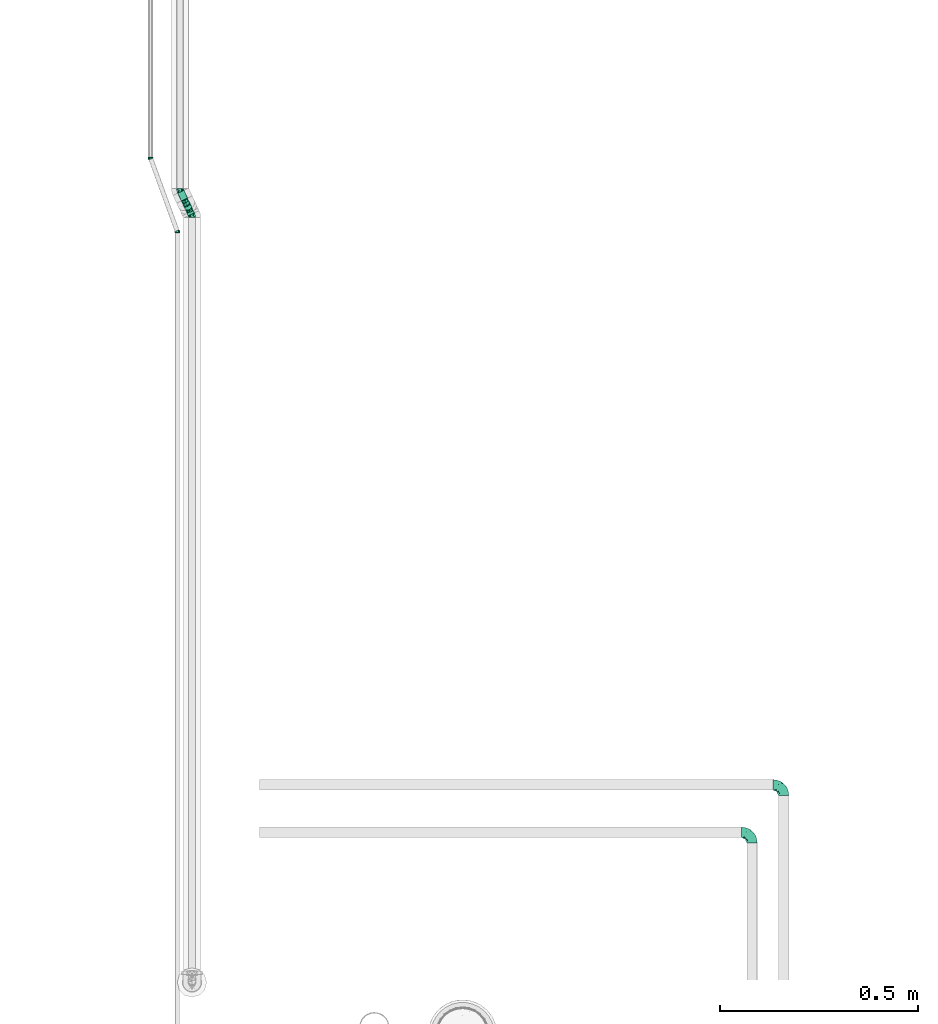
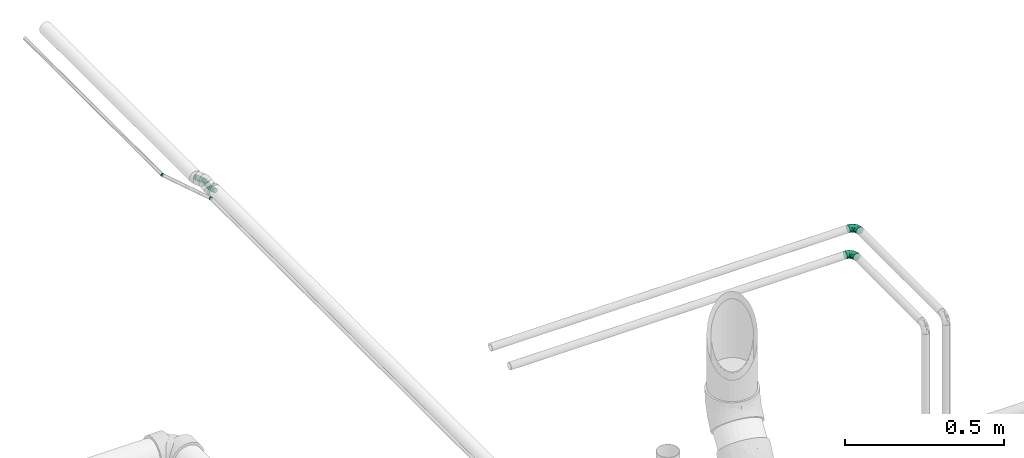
# One storey, part 92 of 156: 8 flow fittings, 3 flow segments.
"""IFC2X3 building model written with IfcOpenShell, lengths in millimetres."""

from ifc_helpers import new_model, entity, si_unit, converted_unit, derived_unit, direction, frame, origin_with_axes, origin_2d_with_axis, place, context, subcontext, project, spatial, hollow_circle, extrude, open_shell, surface_model, source, transform, mapped, type_object, element, save


model = new_model("IFC2X3")

# Units and contexts
model_context = context("Model", 3, precision=0.01, world=frame((0.0, 4.29681676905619e-09, 0.0)), true_north=direction((4.01073788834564e-13, 1.0)))
plan_context = context("Plan", 3, precision=0.01, world=frame((0.0, 4.29681676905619e-09, 0.0)), true_north=direction((4.01073788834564e-13, 1.0)))
body_context = subcontext(model_context, "Body", "Model", "MODEL_VIEW")
ifc_project = project(units=[converted_unit("PLANEANGLEUNIT", "DEGREE", entity("IfcPositiveLengthMeasure", 0.0174532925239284), si_unit("PLANEANGLEUNIT", "RADIAN"), dimensions=[0, 0, 0, 0, 0, 0, 0]), si_unit("AREAUNIT", "SQUARE_METRE"), si_unit("LENGTHUNIT", "METRE", prefix="MILLI"), si_unit("MASSUNIT", "GRAM", prefix="KILO"), si_unit("POWERUNIT", "WATT"), si_unit("PRESSUREUNIT", "PASCAL", prefix="KILO"), si_unit("FORCEUNIT", "NEWTON", prefix="KILO"), si_unit("ELECTRICVOLTAGEUNIT", "VOLT"), si_unit("ELECTRICCURRENTUNIT", "AMPERE"), si_unit("THERMODYNAMICTEMPERATUREUNIT", "DEGREE_CELSIUS"), si_unit("TIMEUNIT", "SECOND"), si_unit("VOLUMEUNIT", "CUBIC_METRE"), derived_unit("LINEARVELOCITYUNIT", [(si_unit("LENGTHUNIT", "METRE"), 1), (si_unit("TIMEUNIT", "SECOND"), -1)]), derived_unit("VOLUMETRICFLOWRATEUNIT", [(si_unit("VOLUMEUNIT", "CUBIC_METRE"), 1), (si_unit("TIMEUNIT", "SECOND"), -1)]), derived_unit("THERMALTRANSMITTANCEUNIT", [(si_unit("POWERUNIT", "WATT"), 1), (si_unit("THERMODYNAMICTEMPERATUREUNIT", "KELVIN"), -1), (si_unit("AREAUNIT", "SQUARE_METRE"), -1)]), derived_unit("SOUNDPRESSUREUNIT", [(si_unit("PRESSUREUNIT", "PASCAL"), 1)])], contexts=[model_context, plan_context])

# Site, building, storey
site_placement = place(None, frame((0.0, -4.29681676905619e-09, 0.0), z_axis=(0.0, 0.0, 1.0), x_axis=(1.0, 0.0, 0.0)))
site = spatial("IfcSite", under=ifc_project, at=site_placement, CompositionType="ELEMENT")
building_placement = place(site_placement, frame((0.0, 4.29681676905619e-09, 0.0), z_axis=(0.0, 0.0, 1.0), x_axis=(1.0, 0.0, 0.0)))
building = spatial("IfcBuilding", under=site, at=building_placement, Name="mc-building", CompositionType="ELEMENT")
storey_placement = place(building_placement, frame((0.0, 0.0, 205200.0), z_axis=(0.0, 0.0, 1.0), x_axis=(1.0, 0.0, 0.0)))
storey = spatial("IfcBuildingStorey", under=building, at=storey_placement, Name="Nivå D + 1,2 m", CompositionType="ELEMENT", Elevation=205200.0)

# Flow fittings
pipe_fitting_type_1 = type_object("IfcPipeFittingType", Name="magi_pipe_fe_elbow_short_001", PredefinedType="BEND")
shared_shape_1 = source(origin_with_axes(), body_context, "Body", "SurfaceModel", [
    surface_model("IfcShellBasedSurfaceModel", [(-26.8, 0.0, -13.4), (-26.8, -12.94341, -3.46818), (-26.8, 3.46818, -12.94341), (-26.8, 6.7, -11.60474), (-26.8, 9.47523, -9.47523), (-26.8, 11.60474, -6.7), (-26.8, 11.60474, 6.7), (-26.8, -9.47523, -9.47523), (-26.8, -6.7, -11.60474), (-26.8, -3.46818, -12.94341), (-26.8, -11.60474, -6.7), (-26.8, -13.4, 0.0), (-26.8, -12.94341, 3.46818), (-26.8, 12.94341, -3.46818), (-26.8, 12.94341, 3.46818), (-26.8, 3.46818, 12.94341), (-26.8, 6.7, 11.60474), (-26.8, 9.47523, 9.47523), (-26.8, -6.7, 11.60474), (-26.8, -11.60474, 6.7), (-26.8, -9.47523, 9.47523), (-26.8, -3.46818, 12.94341), (-26.8, 0.0, 13.4), (-26.8, 13.4, 0.0), (-3.46818, 26.8, -12.94341), (12.94341, 26.8, -3.46818), (0.0, 26.8, -13.4), (-9.47523, 26.8, -9.47523), (-6.7, 26.8, -11.60474), (-11.60474, 26.8, -6.7), (-11.60474, 26.8, 6.7), (6.7, 26.8, -11.60474), (9.47523, 26.8, -9.47523), (3.46818, 26.8, -12.94341), (11.60474, 26.8, -6.7), (12.94341, 26.8, 3.46818), (13.4, 26.8, 0.0), (-13.4, 26.8, 0.0), (-12.94341, 26.8, -3.46818), (-12.94341, 26.8, 3.46818), (-9.47523, 26.8, 9.47523), (-6.7, 26.8, 11.60474), (-3.46818, 26.8, 12.94341), (6.7, 26.8, 11.60474), (9.47523, 26.8, 9.47523), (11.60474, 26.8, 6.7), (3.46818, 26.8, 12.94341), (0.0, 26.8, 13.4), (-17.94383, -11.72186, 4.19396), (-19.61933, -10.40522, 7.51874), (-14.00394, -9.97131, 0.0), (-10.88146, -9.75217, 2.96415), (5.6402, 4.14256, 4.06277), (2.9355, 3.86758, 7.99817), (-0.16552, -0.70254, 6.90229), (-11.69279, -8.47867, 6.74741), (-3.60975, -5.23517, 4.12915), (-20.40197, -11.68565, 0.0), (6.07727, 10.7767, 9.16668), (7.71917, 17.5318, 9.98024), (3.23022, 10.34855, 11.14395), (-17.5318, -7.71917, 9.98024), (-19.6814, -5.06542, 12.05518), (-20.47091, -1.77513, 13.17083), (-18.76435, 2.05404, 13.37716), (-10.34855, -3.23022, 11.14395), (-13.34095, -0.12025, 12.98799), (-20.6562, 5.25542, 12.65822), (-21.01515, 11.15223, 8.78653), (-19.1981, 14.0055, 6.12639), (-23.45804, 12.58298, 5.55254), (-13.79572, 19.62699, 6.0655), (-4.65712, 13.17755, 13.37596), (-9.92557, 9.92557, 13.07441), (-7.97904, 5.85569, 13.33097), (-14.12498, 14.96497, 9.49183), (-23.18377, 8.11481, 10.91864), (-3.49778, 8.97497, 13.15743), (-6.65819, 2.45826, 12.5129), (-1.36893, 7.23965, 12.31444), (-22.3163, 13.71444, 3.37662), (-20.76788, 15.89859, 0.0), (-5.00198, 23.11411, 12.55149), (-1.83653, 20.04451, 13.36709), (5.06542, 19.6814, 12.05518), (-4.60225, -3.19632, 8.30444), (-2.39362, 2.39362, 10.95564), (1.77513, 20.47091, 13.17083), (10.40522, 19.61933, 7.51874), (8.47867, 11.69279, 6.74741), (11.72186, 17.94383, 4.19396), (-10.7767, -6.07727, 9.16668), (-14.71477, 20.20527, 3.11661), (-18.32912, 15.92283, 3.19527), (9.75217, 10.88146, 2.96415), (9.97131, 14.00394, 0.0), (11.68565, 20.40197, 0.0), (-17.32477, 17.32477, 0.0), (8.01422, 6.7, 0.0), (-11.0099, 17.80242, 10.25412), (-8.46783, 20.75346, 11.10693), (-11.06207, 21.36651, 8.74797), (-10.13559, 14.48567, 11.94159), (-5.79525, 18.15733, 12.76163), (-14.31139, 12.02432, 11.13575), (-6.7, -8.01422, 0.0), (-14.72492, 5.73985, 13.1602), (-13.14892, 3.28357, 13.39428), (-14.24576, 9.09225, 12.39421), (-7.80572, 13.90987, 12.83655), (0.12025, 13.34095, 12.98799), (-18.45241, 9.09615, 11.28418), (-1.02036, 0.84565, 9.15855), (-3.66591, -4.13183, 6.30134), (-3.02144, -4.33567, 0.0), (1.56761, -1.1228, 3.23127), (-15.89859, 20.76788, 0.0), (4.33567, 3.02144, 0.0), (0.65711, -0.65711, 0.0), (-21.21323, 1.69434, -13.35639), (-11.59215, 19.61477, -8.94181), (-19.9553, -12.05444, -4.41231), (-20.61911, 5.26132, -12.65979), (-18.29002, 15.89425, -3.37935), (-10.94714, -3.38176, -11.24231), (-11.6358, -0.16715, -12.74497), (-5.38395, -0.22423, -10.97991), (-19.45447, 8.78609, -11.20697), (-21.18665, 11.10723, -8.76769), (8.05635, 19.80434, -10.14754), (-16.16073, 12.27967, -10.10626), (-10.65974, -9.81032, -2.24682), (-4.63434, -6.26604, -3.21731), (-12.41035, 15.57424, -10.31822), (-9.54276, 16.38525, -11.6371), (-12.38435, 12.38435, -11.76567), (-1.18054, -2.52878, -5.66699), (1.17703, 2.36499, -8.51656), (4.94456, 3.94062, -5.27361), (-13.23013, 7.7548, -12.95755), (-18.92609, -10.30887, -7.4546), (-19.80434, -8.05635, -10.14754), (-5.46999, 19.49566, -12.70683), (12.05444, 19.9553, -4.41231), (-22.63124, -5.28269, -12.19553), (-11.57403, -7.91736, -7.4927), (-10.00514, -5.4662, -9.37392), (0.56412, 6.29454, -11.17498), (0.16715, 11.6358, -12.74497), (2.76952, 11.43973, -11.70622), (-22.71135, 13.83144, -2.294), (-13.13887, 21.26515, -5.84046), (-14.02683, 21.74629, -2.98452), (10.30887, 18.92609, -7.4546), (-4.73052, 4.73052, -12.6532), (-16.28385, 15.93209, -6.57302), (-1.69434, 21.21323, -13.35639), (-8.4106, 21.03687, -11.08508), (1.68957, 19.74249, -13.15499), (5.28269, 22.63124, -12.19553), (-19.74249, -1.68957, -13.15499), (-16.96978, -4.62448, -11.91765), (-3.16773, 14.76219, -13.39711), (-7.24575, 7.81916, -13.39239), (-7.92886, 12.7032, -13.00116), (-6.57993, -6.26304, -6.05124), (9.46363, 9.95483, -2.39006), (6.59847, 4.89531, -2.6225), (0.29079, -2.47661, -2.876), (-21.42347, 13.17132, -5.65321), (9.35918, 11.66841, -5.08525), (8.33374, 12.94014, -7.69724), (5.4662, 10.00514, -9.37392), (4.62448, 16.96978, -11.91765), (-3.89324, -2.60816, -8.35445), (5.97121, 7.49007, -7.29975), (-14.76219, 3.16773, -13.39711), (-15.36238, 22.06238, 0.0), (-11.66841, -9.35918, -5.08525), (3.63632, 1.19488, -3.35093), (-14.94382, 15.17624, -8.6945)], [open_shell([[[0, 1, 2]], [[3, 2, 4]], [[5, 2, 1]], [[4, 2, 5]], [[5, 1, 6]], [[7, 1, 8]], [[0, 9, 8]], [[10, 1, 7]], [[8, 1, 0]], [[11, 12, 1]], [[13, 5, 14]], [[5, 6, 14]], [[1, 15, 6]], [[15, 16, 17]], [[6, 15, 17]], [[1, 18, 15]], [[19, 20, 12]], [[18, 12, 20]], [[18, 21, 15]], [[18, 1, 12]], [[15, 21, 22]], [[14, 23, 13]], [[24, 25, 26]], [[27, 24, 28]], [[25, 24, 29]], [[29, 24, 27]], [[30, 25, 29]], [[31, 25, 32]], [[31, 33, 26]], [[32, 25, 34]], [[26, 25, 31]], [[25, 35, 36]], [[37, 29, 38]], [[39, 30, 29]], [[30, 40, 25]], [[40, 41, 42]], [[42, 25, 40]], [[43, 25, 42]], [[35, 44, 45]], [[44, 35, 43]], [[42, 46, 43]], [[35, 25, 43]], [[47, 46, 42]], [[39, 29, 37]], [[48, 49, 19]], [[48, 50, 51]], [[52, 53, 54]], [[55, 51, 56]], [[49, 20, 19]], [[57, 48, 12]], [[58, 59, 60]], [[61, 18, 20]], [[61, 62, 18]], [[22, 63, 64]], [[62, 65, 66]], [[59, 44, 43]], [[22, 21, 63]], [[67, 16, 15]], [[68, 69, 70]], [[30, 39, 71]], [[72, 73, 74]], [[69, 68, 75]], [[22, 64, 15]], [[16, 76, 17]], [[6, 17, 68]], [[77, 78, 79]], [[80, 81, 23]], [[42, 82, 83]], [[43, 84, 59]], [[85, 86, 65]], [[46, 47, 87]], [[88, 89, 90]], [[91, 65, 61]], [[47, 42, 83]], [[71, 92, 93]], [[90, 94, 95]], [[84, 43, 46]], [[88, 90, 45]], [[59, 84, 60]], [[35, 45, 90]], [[75, 71, 69]], [[18, 62, 21]], [[90, 96, 35]], [[97, 81, 93]], [[94, 98, 95]], [[92, 97, 93]], [[50, 48, 57]], [[70, 14, 6]], [[99, 100, 101]], [[40, 101, 100]], [[41, 40, 100]], [[102, 103, 100]], [[103, 72, 83]], [[82, 100, 103]], [[82, 42, 41]], [[99, 104, 102]], [[23, 14, 80]], [[67, 15, 64]], [[51, 50, 105]], [[48, 19, 12]], [[49, 55, 61]], [[45, 44, 88]], [[89, 52, 94]], [[106, 107, 74]], [[108, 67, 106]], [[40, 30, 101]], [[103, 102, 109]], [[103, 109, 72]], [[87, 83, 110]], [[76, 68, 17]], [[68, 111, 104]], [[65, 62, 61]], [[63, 62, 66]], [[91, 61, 55]], [[65, 86, 78]], [[87, 84, 46]], [[110, 79, 60]], [[110, 60, 84]], [[86, 112, 60]], [[55, 49, 48]], [[61, 20, 49]], [[44, 59, 88]], [[89, 88, 59]], [[106, 67, 64]], [[76, 67, 111]], [[53, 52, 89]], [[112, 86, 85]], [[56, 113, 55]], [[112, 54, 53]], [[58, 89, 59]], [[56, 51, 105]], [[114, 115, 56]], [[14, 70, 80]], [[69, 71, 93]], [[37, 116, 92]], [[92, 116, 97]], [[30, 71, 101]], [[75, 101, 71]], [[99, 102, 100]], [[108, 104, 111]], [[106, 74, 73]], [[110, 83, 72]], [[78, 74, 66]], [[72, 74, 77]], [[83, 87, 47]], [[84, 87, 110]], [[62, 63, 21]], [[64, 63, 66]], [[12, 11, 57]], [[96, 90, 95]], [[96, 36, 35]], [[115, 117, 52]], [[56, 105, 114]], [[55, 48, 51]], [[89, 94, 90]], [[52, 98, 94]], [[106, 64, 107]], [[108, 106, 73]], [[102, 108, 73]], [[67, 108, 111]], [[102, 104, 108]], [[68, 104, 75]], [[64, 66, 107]], [[66, 74, 107]], [[65, 78, 66]], [[79, 78, 86]], [[60, 79, 86]], [[77, 79, 110]], [[72, 77, 110]], [[78, 77, 74]], [[67, 76, 16]], [[68, 76, 111]], [[100, 82, 41]], [[83, 82, 103]], [[68, 70, 6]], [[80, 69, 93]], [[69, 80, 70]], [[80, 93, 81]], [[55, 85, 91]], [[85, 65, 91]], [[60, 53, 58]], [[53, 89, 58]], [[54, 112, 85]], [[60, 112, 53]], [[85, 113, 54]], [[113, 115, 54]], [[55, 113, 85]], [[115, 113, 56]], [[71, 39, 92]], [[115, 114, 118]], [[37, 92, 39]], [[101, 75, 99]], [[99, 75, 104]], [[102, 73, 109]], [[72, 109, 73]], [[54, 115, 52]], [[117, 115, 118]], [[117, 98, 52]], [[2, 119, 0]], [[29, 27, 120]], [[121, 57, 1]], [[3, 122, 2]], [[97, 123, 81]], [[124, 125, 126]], [[127, 4, 128]], [[32, 129, 31]], [[127, 128, 130]], [[131, 132, 105]], [[133, 134, 135]], [[127, 3, 4]], [[136, 137, 138]], [[139, 122, 127]], [[4, 5, 128]], [[10, 140, 121]], [[141, 140, 7]], [[24, 142, 28]], [[95, 143, 96]], [[144, 8, 9]], [[145, 141, 146]], [[25, 36, 96]], [[147, 148, 149]], [[140, 10, 7]], [[23, 81, 150]], [[130, 133, 135]], [[151, 152, 38]], [[153, 34, 143]], [[147, 154, 148]], [[38, 29, 151]], [[120, 155, 151]], [[32, 153, 129]], [[26, 156, 24]], [[24, 156, 142]], [[143, 34, 25]], [[27, 28, 157]], [[123, 152, 155]], [[158, 33, 159]], [[144, 160, 161]], [[122, 3, 127]], [[148, 162, 158]], [[157, 28, 142]], [[162, 163, 164]], [[159, 33, 31]], [[165, 136, 132]], [[34, 153, 32]], [[166, 98, 167]], [[160, 9, 0]], [[161, 160, 125]], [[95, 166, 143]], [[50, 131, 105]], [[121, 1, 10]], [[168, 114, 132]], [[150, 169, 13]], [[167, 98, 117]], [[33, 158, 26]], [[164, 142, 162]], [[133, 157, 134]], [[7, 8, 141]], [[165, 145, 146]], [[170, 171, 153]], [[129, 172, 173]], [[126, 137, 174]], [[175, 137, 172]], [[148, 158, 173]], [[156, 158, 162]], [[149, 172, 147]], [[148, 154, 163]], [[119, 160, 0]], [[176, 163, 125]], [[176, 125, 160]], [[125, 154, 126]], [[169, 128, 5]], [[127, 130, 135]], [[139, 127, 135]], [[119, 122, 176]], [[120, 151, 29]], [[152, 97, 177]], [[142, 164, 134]], [[120, 27, 157]], [[152, 37, 38]], [[81, 123, 150]], [[123, 155, 169]], [[152, 123, 97]], [[140, 178, 121]], [[121, 178, 131]], [[144, 141, 8]], [[146, 141, 161]], [[25, 96, 143]], [[170, 153, 143]], [[129, 153, 171]], [[159, 129, 173]], [[137, 147, 172]], [[126, 154, 147]], [[172, 171, 175]], [[174, 137, 136]], [[137, 126, 147]], [[126, 146, 124]], [[117, 118, 179]], [[179, 138, 167]], [[128, 169, 155]], [[5, 13, 169]], [[57, 121, 50]], [[57, 11, 1]], [[122, 119, 2]], [[160, 119, 176]], [[158, 156, 26]], [[142, 156, 162]], [[162, 148, 163]], [[139, 135, 164]], [[125, 163, 154]], [[139, 163, 176]], [[163, 139, 164]], [[122, 139, 176]], [[155, 180, 128]], [[180, 120, 133]], [[180, 133, 130]], [[157, 133, 120]], [[142, 134, 157]], [[164, 135, 134]], [[128, 180, 130]], [[120, 180, 155]], [[152, 151, 155]], [[37, 152, 177]], [[169, 150, 123]], [[23, 150, 13]], [[121, 131, 50]], [[178, 165, 132]], [[178, 132, 131]], [[168, 132, 136]], [[145, 165, 178]], [[174, 165, 146]], [[178, 140, 145]], [[141, 145, 140]], [[179, 136, 138]], [[170, 166, 167]], [[168, 179, 118]], [[170, 167, 138]], [[143, 166, 170]], [[95, 98, 166]], [[117, 179, 167]], [[136, 179, 168]], [[129, 159, 31]], [[158, 159, 173]], [[160, 144, 9]], [[141, 144, 161]], [[175, 170, 138]], [[129, 171, 172]], [[170, 175, 171]], [[137, 175, 138]], [[148, 173, 149]], [[172, 149, 173]], [[165, 174, 136]], [[126, 174, 146]], [[146, 161, 124]], [[125, 124, 161]], [[114, 168, 118]], [[114, 105, 132]]])]),
])
for number, where, z_axis, x_axis, name in (
    (1, (325040.9735, 464927.01094, 4400.0), (0.0, 0.0, 1.0), (0.0, 1.0, 0.0), "magi_pipe_fe_elbow_short_001"),
    (2, (325120.9735, 465047.01094, 4400.0), (0.0, 0.0, 1.0), (0.0, 1.0, 0.0), "magi_pipe_fe_elbow_short_001"),
):
    element("IfcFlowFitting", number, at=place(storey_placement, frame(where, z_axis=z_axis, x_axis=x_axis)), inside=storey, type_object=pipe_fitting_type_1, Name=name, context=body_context, shape_type="MappedRepresentation", body=[
        mapped(shared_shape_1, transform((0.0, 0.0, 0.0), scale=1.0)),
    ])
pipe_fitting_type_2 = type_object("IfcPipeFittingType", Name="magi_pipe_elbow_short_001", PredefinedType="BEND")
shared_shape_2 = source(origin_with_axes(), body_context, "Body", "SurfaceModel", [
    surface_model("IfcShellBasedSurfaceModel", [(-7.45584, 4.5, -7.79423), (-7.45584, 2.32937, -8.69333), (-7.45584, 0.0, -9.0), (-7.45584, -6.36396, -6.36396), (-7.45584, 8.69333, -2.32937), (-7.45584, 7.79423, -4.5), (-7.45584, 6.36396, -6.36396), (-7.45584, -4.5, -7.79423), (-7.45584, -2.32937, -8.69333), (-7.45584, -7.79423, -4.5), (-7.45584, -8.69333, -2.32937), (-7.45584, -9.0, 0.0), (-7.45584, 8.69333, 2.32937), (-7.45584, -8.69333, 2.32937), (-7.45584, 7.79423, 4.5), (-7.45584, 6.36396, 6.36396), (-7.45584, 2.32937, 8.69333), (-7.45584, 4.5, 7.79423), (-7.45584, -7.79423, 4.5), (-7.45584, -6.36396, 6.36396), (-7.45584, -4.5, 7.79423), (-7.45584, -2.32937, 8.69333), (-7.45584, 0.0, 9.0), (-7.45584, 9.0, 0.0), (5.27208, 5.27208, -9.0), (3.62496, 6.91919, -8.69333), (2.0901, 8.45406, -7.79423), (9.77208, 0.77208, -6.36396), (-0.23927, 10.78343, -4.5), (-0.87504, 11.41919, -2.32937), (0.77208, 9.77208, -6.36396), (11.41919, -0.87504, -2.32937), (6.91919, 3.62496, -8.69333), (8.45406, 2.0901, -7.79423), (10.78343, -0.23927, -4.5), (11.41919, -0.87504, 2.32937), (11.63604, -1.09188, 0.0), (9.77208, 0.77208, 6.36396), (-0.87504, 11.41919, 2.32937), (0.77208, 9.77208, 6.36396), (-0.23927, 10.78343, 4.5), (2.0901, 8.45406, 7.79423), (3.62496, 6.91919, 8.69333), (10.78343, -0.23927, 4.5), (6.91919, 3.62496, 8.69333), (8.45406, 2.0901, 7.79423), (5.27208, 5.27208, 9.0), (-1.09188, 11.63604, 0.0), (-3.55786, -8.22464, 0.0), (-2.49647, -4.73929, 7.29293), (0.8774, 4.5905, 8.72391), (-0.68155, 0.58624, 8.97389), (-2.85416, 7.01633, 6.62539), (-5.50685, -8.61232, 0.0), (2.87661, -6.94475, 0.0), (-0.34063, -7.5847, 0.0), (4.91359, -2.18987, 6.9831), (5.60405, -5.12233, 0.0), (-4.01169, 9.68508, 0.0), (8.33149, -3.29991, 0.0), (9.98376, -2.1959, 0.0), (-0.73677, 5.37048, -8.2068), (4.81728, -2.45322, -6.83687), (-1.11341, -1.36817, -8.67955)], [open_shell([[[0, 1, 2]], [[0, 2, 3]], [[0, 4, 5]], [[6, 0, 5]], [[4, 0, 3]], [[7, 3, 8]], [[3, 2, 8]], [[9, 10, 3]], [[11, 3, 10]], [[3, 11, 4]], [[11, 12, 4]], [[12, 11, 13]], [[14, 12, 15]], [[16, 17, 15]], [[13, 15, 12]], [[15, 18, 16]], [[18, 19, 16]], [[15, 13, 18]], [[20, 21, 19]], [[22, 19, 21]], [[16, 19, 22]], [[23, 4, 12]], [[24, 25, 26]], [[27, 24, 26]], [[28, 29, 26]], [[28, 26, 30]], [[31, 26, 29]], [[32, 27, 33]], [[32, 24, 27]], [[27, 31, 34]], [[26, 31, 27]], [[31, 35, 36]], [[31, 29, 37]], [[29, 38, 39]], [[39, 38, 40]], [[39, 41, 42]], [[39, 37, 29]], [[37, 39, 42]], [[35, 37, 43]], [[31, 37, 35]], [[37, 44, 45]], [[44, 37, 46]], [[42, 46, 37]], [[38, 29, 47]], [[19, 48, 20]], [[18, 48, 19]], [[20, 48, 49]], [[40, 50, 39]], [[17, 49, 51]], [[49, 22, 21]], [[52, 50, 40]], [[13, 53, 18]], [[54, 49, 55]], [[54, 56, 51]], [[16, 49, 17]], [[14, 52, 12]], [[13, 11, 53]], [[56, 54, 57]], [[52, 14, 15]], [[58, 23, 12]], [[51, 52, 15]], [[53, 48, 18]], [[22, 49, 16]], [[20, 49, 21]], [[51, 49, 54]], [[46, 56, 44]], [[45, 44, 56]], [[12, 52, 58]], [[42, 56, 46]], [[59, 43, 37]], [[59, 37, 45]], [[35, 60, 36]], [[57, 59, 56]], [[49, 48, 55]], [[58, 52, 47]], [[38, 47, 52]], [[45, 56, 59]], [[52, 40, 38]], [[42, 41, 50]], [[59, 60, 43]], [[39, 50, 41]], [[43, 60, 35]], [[42, 50, 56]], [[50, 52, 51]], [[56, 50, 51]], [[51, 15, 17]], [[61, 62, 63]], [[29, 61, 58]], [[0, 63, 1]], [[1, 63, 2]], [[61, 4, 58]], [[9, 53, 10]], [[48, 8, 55]], [[48, 53, 9]], [[61, 5, 4]], [[26, 25, 61]], [[48, 7, 8]], [[6, 63, 0]], [[53, 11, 10]], [[9, 3, 48]], [[48, 3, 7]], [[63, 54, 55]], [[63, 8, 2]], [[4, 23, 58]], [[58, 47, 29]], [[54, 63, 62]], [[29, 28, 61]], [[30, 26, 61]], [[31, 36, 60]], [[25, 24, 62]], [[60, 59, 34]], [[63, 6, 5]], [[25, 62, 61]], [[63, 55, 8]], [[32, 62, 24]], [[59, 62, 33]], [[5, 61, 63]], [[57, 54, 62]], [[59, 33, 27]], [[31, 60, 34]], [[62, 59, 57]], [[59, 27, 34]], [[33, 62, 32]], [[61, 28, 30]]])]),
])
for number, where, z_axis, x_axis, name in (
    (3, (323616.35088, 466502.96036, 4190.50902999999), (0.906307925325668, 0.422617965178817, 0.0), (-0.422617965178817, 0.906307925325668, 0.0), "magi_pipe_elbow_short_001"),
    (4, (323607.89851, 466521.08651, 4210.50902999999), (-0.906307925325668, -0.422617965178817, -5.55111512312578e-17), (-0.298835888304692, 0.640856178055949, 0.707107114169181), "magi_pipe_elbow_short_001"),
):
    element("IfcFlowFitting", number, at=place(storey_placement, frame(where, z_axis=z_axis, x_axis=x_axis)), inside=storey, type_object=pipe_fitting_type_2, Name=name, context=body_context, shape_type="MappedRepresentation", body=[
        mapped(shared_shape_2, transform((0.0, 0.0, 0.0), scale=1.0)),
    ])
shared_shape_3 = source(origin_with_axes(), body_context, "Body", "SurfaceModel", [
    surface_model("IfcShellBasedSurfaceModel", [(-2.11592, 0.0, -6.0), (-2.11592, -5.19615, -3.0), (-2.11592, 1.55291, -5.79555), (-2.11592, 3.0, -5.19615), (-2.11592, 5.79555, -1.55291), (-2.11592, 5.19615, -3.0), (-2.11592, 4.24264, -4.24264), (-2.11592, -3.0, -5.19615), (-2.11592, -4.24264, -4.24264), (-2.11592, -1.55291, -5.79555), (-2.11592, -5.79555, -1.55291), (-2.11592, -6.0, 0.0), (-2.11592, -4.24264, 4.24264), (-2.11592, -3.0, 5.19615), (-2.11592, 5.79555, 1.55291), (-2.11592, 5.19615, 3.0), (-2.11592, 4.24264, 4.24264), (-2.11592, 1.55291, 5.79555), (-2.11592, 3.0, 5.19615), (-2.11592, -5.79555, 1.55291), (-2.11592, -5.19615, 3.0), (-2.11592, -1.55291, 5.79555), (-2.11592, 0.0, 6.0), (-2.11592, 6.0, 0.0), (1.45719, 2.18295, -5.79555), (3.43939, -3.26309, -4.24264), (1.98832, 0.72369, -6.0), (0.00612, 6.16973, -1.55291), (0.96226, 3.54277, -5.19615), (0.21113, 5.60647, -3.0), (0.53725, 4.71047, -4.24264), (3.76551, -4.1591, -3.0), (2.51945, -0.73557, -5.79555), (3.01438, -2.09539, -5.19615), (4.04044, -4.91447, 0.0), (3.97051, -4.72235, -1.55291), (-0.0638, 6.36184, 0.0), (0.00612, 6.16973, 1.55291), (3.01438, -2.09539, 5.19615), (0.21113, 5.60647, 3.0), (0.96226, 3.54277, 5.19615), (1.45719, 2.18295, 5.79555), (0.53725, 4.71047, 4.24264), (3.97051, -4.72235, 1.55291), (3.43939, -3.26309, 4.24264), (3.76551, -4.1591, 3.0), (1.98832, 0.72369, 6.0), (2.51945, -0.73557, 5.79555), (1.00974, -5.72654, 0.0), (-0.78935, -5.88394, 0.0), (-1.07403, 6.09115, 0.0), (2.75417, -5.25912, 0.0)], [open_shell([[[0, 1, 2]], [[3, 2, 4]], [[4, 5, 6]], [[3, 4, 6]], [[4, 2, 1]], [[7, 8, 9]], [[1, 9, 8]], [[10, 11, 1]], [[0, 9, 1]], [[11, 12, 1]], [[13, 4, 1]], [[4, 13, 14]], [[15, 14, 16]], [[17, 18, 16]], [[14, 17, 16]], [[17, 14, 13]], [[19, 20, 11]], [[11, 20, 12]], [[21, 22, 13]], [[13, 1, 12]], [[17, 13, 22]], [[23, 4, 14]], [[24, 25, 26]], [[27, 24, 28]], [[29, 27, 28]], [[29, 28, 30]], [[31, 24, 27]], [[32, 25, 33]], [[32, 26, 25]], [[31, 34, 35]], [[25, 24, 31]], [[27, 34, 31]], [[27, 36, 34]], [[37, 38, 36]], [[39, 38, 37]], [[40, 41, 39]], [[40, 39, 42]], [[41, 38, 39]], [[43, 44, 45]], [[43, 34, 44]], [[38, 46, 47]], [[34, 38, 44]], [[41, 46, 38]], [[38, 34, 36]], [[13, 12, 48]], [[12, 20, 49]], [[47, 21, 13]], [[22, 41, 17]], [[22, 21, 46]], [[19, 49, 20]], [[42, 16, 18]], [[39, 15, 16]], [[14, 15, 50]], [[50, 23, 14]], [[50, 15, 39]], [[41, 18, 17]], [[19, 11, 49]], [[48, 12, 49]], [[38, 47, 13]], [[38, 48, 44]], [[47, 46, 21]], [[51, 45, 44]], [[48, 51, 44]], [[43, 51, 34]], [[39, 37, 50]], [[36, 50, 37]], [[45, 51, 43]], [[41, 22, 46]], [[39, 16, 42]], [[42, 18, 40]], [[41, 40, 18]], [[13, 48, 38]], [[1, 49, 10]], [[24, 0, 2]], [[26, 9, 0]], [[29, 6, 5]], [[6, 30, 3]], [[2, 3, 24]], [[50, 5, 4]], [[49, 11, 10]], [[1, 8, 49]], [[48, 7, 33]], [[48, 49, 8]], [[48, 8, 7]], [[32, 7, 9]], [[4, 23, 50]], [[50, 36, 27]], [[50, 27, 29]], [[28, 3, 30]], [[24, 3, 28]], [[35, 34, 51]], [[6, 29, 30]], [[24, 26, 0]], [[25, 48, 33]], [[7, 32, 33]], [[31, 35, 51]], [[48, 25, 51]], [[51, 25, 31]], [[9, 26, 32]], [[29, 5, 50]]])]),
])
for number, where, z_axis, x_axis, name in (
    (5, (323519.02337, 466632.95621, 4196.25), (0.0, 0.0, 1.0), (0.0, -1.0, 0.0), "magi_pipe_elbow_short_001"),
    (6, (323586.90619, 466446.4497, 4196.25), (0.0, 0.0, 1.0), (0.0, 1.0, 0.0), "magi_pipe_elbow_short_001"),
):
    element("IfcFlowFitting", number, at=place(storey_placement, frame(where, z_axis=z_axis, x_axis=x_axis)), inside=storey, type_object=pipe_fitting_type_2, Name=name, context=body_context, shape_type="MappedRepresentation", body=[
        mapped(shared_shape_3, transform((0.0, 0.0, 0.0), scale=1.0)),
    ])
shared_shape_4 = source(origin_with_axes(), body_context, "Body", "SurfaceModel", [
    surface_model("IfcShellBasedSurfaceModel", [(-3.9905, 4.5, -7.79423), (-3.9905, 2.32937, -8.69333), (-3.9905, 0.0, -9.0), (-3.9905, -6.36396, -6.36396), (-3.9905, 8.69333, -2.32937), (-3.9905, 7.79423, -4.5), (-3.9905, 6.36396, -6.36396), (-3.9905, -4.5, -7.79423), (-3.9905, -2.32937, -8.69333), (-3.9905, -7.79423, -4.5), (-3.9905, -8.69333, -2.32937), (-3.9905, -9.0, 0.0), (-3.9905, 8.69333, 2.32937), (-3.9905, -8.69333, 2.32937), (-3.9905, 7.79423, 4.5), (-3.9905, 6.36396, 6.36396), (-3.9905, 2.32937, 8.69333), (-3.9905, 4.5, 7.79423), (-3.9905, -7.79423, 4.5), (-3.9905, -6.36396, 6.36396), (-3.9905, -4.5, 7.79423), (-3.9905, -2.32937, 8.69333), (-3.9905, 0.0, 9.0), (-3.9905, 9.0, 0.0), (3.61662, 1.68646, -9.0), (2.63219, 3.79759, -8.69333), (1.71484, 5.76485, -7.79423), (7.29059, -6.19238, 2.32937), (4.60106, -0.42467, -8.69333), (0.9271, 7.45417, -6.36396), (6.91061, -5.37751, 4.5), (-0.05734, 9.56529, 2.32937), (0.32264, 8.75043, -4.5), (5.51841, -2.39193, -7.79423), (6.91061, -5.37751, -4.5), (6.30615, -4.08125, -6.36396), (7.42019, -6.47031, 0.0), (7.29059, -6.19238, -2.32937), (-0.05734, 9.56529, -2.32937), (0.9271, 7.45417, 6.36396), (0.32264, 8.75043, 4.5), (1.71484, 5.76485, 7.79423), (2.63219, 3.79759, 8.69333), (3.61662, 1.68646, 9.0), (5.51841, -2.39193, 7.79423), (6.30615, -4.08125, 6.36396), (4.60106, -0.42467, 8.69333), (-0.18694, 9.84323, 0.0), (-0.02216, -8.5654, 0.0), (0.75354, -3.39901, 8.10215), (-2.00633, -8.7827, 0.0), (-0.87395, 3.94215, 8.24827), (-2.04255, 9.21334, 0.0), (1.85337, -8.35999, 0.0), (3.63998, -7.75352, 0.0), (5.53008, -7.11191, 0.0), (-0.87395, 3.94215, -8.24827), (0.75354, -3.39901, -8.10215)], [open_shell([[[0, 1, 2]], [[0, 2, 3]], [[0, 4, 5]], [[6, 0, 5]], [[4, 0, 3]], [[7, 3, 8]], [[3, 2, 8]], [[9, 10, 3]], [[11, 3, 10]], [[3, 11, 4]], [[11, 12, 4]], [[12, 11, 13]], [[14, 12, 15]], [[16, 17, 15]], [[13, 15, 12]], [[15, 18, 16]], [[18, 19, 16]], [[15, 13, 18]], [[20, 21, 19]], [[22, 19, 21]], [[16, 19, 22]], [[23, 4, 12]], [[24, 25, 26]], [[27, 24, 26]], [[27, 28, 24]], [[29, 30, 26]], [[31, 29, 32]], [[33, 34, 35]], [[34, 33, 28]], [[34, 36, 37]], [[27, 34, 28]], [[34, 27, 36]], [[31, 32, 38]], [[29, 31, 30]], [[39, 31, 40]], [[39, 41, 42]], [[31, 39, 43]], [[42, 43, 39]], [[30, 44, 45]], [[27, 26, 30]], [[30, 46, 44]], [[46, 30, 43]], [[31, 43, 30]], [[31, 38, 47]], [[48, 49, 19]], [[50, 19, 18]], [[19, 49, 20]], [[49, 16, 22]], [[21, 49, 22]], [[20, 49, 21]], [[13, 50, 18]], [[13, 11, 50]], [[15, 17, 51]], [[14, 15, 51]], [[16, 51, 17]], [[12, 14, 52]], [[52, 23, 12]], [[14, 51, 52]], [[16, 49, 51]], [[48, 19, 50]], [[48, 53, 49]], [[44, 46, 49]], [[45, 49, 54]], [[42, 51, 49]], [[49, 43, 42]], [[55, 45, 54]], [[45, 44, 49]], [[27, 55, 36]], [[40, 31, 52]], [[47, 52, 31]], [[55, 30, 45]], [[51, 42, 41]], [[30, 55, 27]], [[51, 40, 52]], [[49, 53, 54]], [[41, 39, 51]], [[40, 51, 39]], [[43, 49, 46]], [[50, 9, 3]], [[9, 50, 10]], [[0, 56, 1]], [[1, 57, 2]], [[5, 52, 56]], [[56, 6, 5]], [[1, 56, 57]], [[52, 5, 4]], [[57, 53, 48]], [[6, 56, 0]], [[50, 11, 10]], [[3, 48, 50]], [[8, 57, 7]], [[3, 7, 57]], [[57, 48, 3]], [[2, 57, 8]], [[4, 23, 52]], [[52, 47, 38]], [[52, 38, 32]], [[56, 29, 26]], [[33, 57, 28]], [[56, 25, 57]], [[54, 35, 55]], [[32, 29, 56]], [[24, 57, 25]], [[37, 36, 55]], [[25, 56, 26]], [[35, 54, 57]], [[33, 35, 57]], [[37, 55, 34]], [[54, 53, 57]], [[35, 34, 55]], [[24, 28, 57]], [[56, 52, 32]]])]),
])
for number, where, z_axis, x_axis, name in (
    (7, (323623.87367, 466486.82768, 4190.50902999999), (0.0, 0.0, 1.0), (0.0, 1.0, 0.0), "magi_pipe_elbow_short_001"),
    (8, (323593.87367, 466551.16289, 4210.50902999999), (0.0, 0.0, 1.0), (0.0, -1.0, 0.0), "magi_pipe_elbow_short_001"),
):
    element("IfcFlowFitting", number, at=place(storey_placement, frame(where, z_axis=z_axis, x_axis=x_axis)), inside=storey, type_object=pipe_fitting_type_2, Name=name, context=body_context, shape_type="MappedRepresentation", body=[
        mapped(shared_shape_4, transform((0.0, 0.0, 0.0), scale=1.0)),
    ])

# Flow segments
pipe_segment_type = type_object("IfcPipeSegmentType", Name="Kobberrør", PredefinedType="RIGIDSEGMENT")
shared_shape_5 = source(origin_with_axes(), body_context, "Body", "SweptSolid", [
    extrude(hollow_circle(Radius=9.0, WallThickness=2.0, at=origin_2d_with_axis()), frame((0.0, 0.0, 0.0), z_axis=(1.0, 0.0, 0.0), x_axis=(0.0, 1.0, 0.0)), (0.0, 0.0, 1.0), 21.7),
])
flow_segment_1_placement = place(storey_placement, frame((323604.74754, 466527.8438, 4210.50902999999), z_axis=(0.0, 0.0, 1.0), x_axis=(-0.422617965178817, 0.906307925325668, 0.0)))
element("IfcFlowSegment", 9, at=flow_segment_1_placement, inside=storey, type_object=pipe_segment_type, Name="Kobberrør", context=body_context, shape_type="MappedRepresentation", body=[
    mapped(shared_shape_5, transform((0.0, 0.0, 0.0), scale=1.0)),
])
shared_shape_6 = source(origin_with_axes(), body_context, "Body", "SweptSolid", [
    extrude(hollow_circle(Radius=9.0, WallThickness=2.0, at=origin_2d_with_axis()), frame((0.0, 0.0, 0.0), z_axis=(1.0, 0.0, 0.0), x_axis=(0.0, 1.0, 0.0)), (0.0, 0.0, 1.0), 6.4),
])
flow_segment_2_placement = place(storey_placement, frame((323622.18721, 466490.44431, 4190.50902999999), z_axis=(0.0, 0.0, 1.0), x_axis=(-0.422617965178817, 0.906307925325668, 0.0)))
element("IfcFlowSegment", 10, at=flow_segment_2_placement, inside=storey, type_object=pipe_segment_type, Name="Kobberrør", context=body_context, shape_type="MappedRepresentation", body=[
    mapped(shared_shape_6, transform((0.0, 0.0, 0.0), scale=1.0)),
])
shared_shape_7 = source(origin_with_axes(), body_context, "Body", "SweptSolid", [
    extrude(hollow_circle(Radius=9.0, WallThickness=2.0, at=origin_2d_with_axis()), frame((0.0, 0.0, 0.0), z_axis=(1.0, 0.0, 0.0), x_axis=(0.0, 1.0, 0.0)), (0.0, 0.0, 1.0), 13.4),
])
flow_segment_3_placement = place(storey_placement, frame((323614.1228, 466507.73848, 4195.78111000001), z_axis=(0.298836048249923, -0.640856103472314, 0.70710711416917), x_axis=(-0.298836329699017, 0.640856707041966, 0.707106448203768)))
element("IfcFlowSegment", 11, at=flow_segment_3_placement, inside=storey, type_object=pipe_segment_type, Name="Kobberrør", context=body_context, shape_type="MappedRepresentation", body=[
    mapped(shared_shape_7, transform((0.0, 0.0, 0.0), scale=1.0, scale2=1.0, scale3=1.0, uniform=False)),
])

save(model, "model.ifc")
